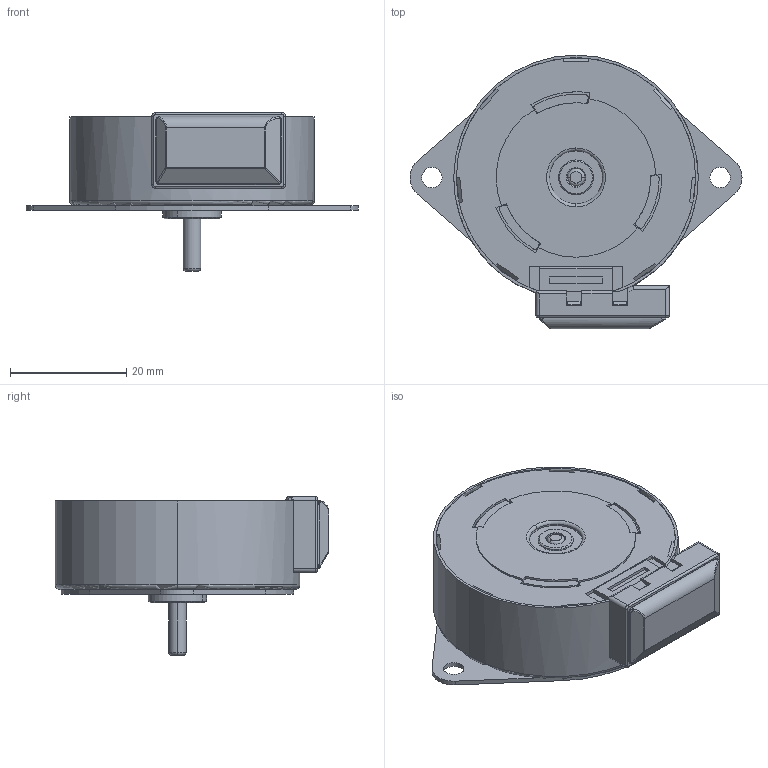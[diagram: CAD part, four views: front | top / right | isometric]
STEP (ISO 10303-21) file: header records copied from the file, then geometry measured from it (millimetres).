
FILE_DESCRIPTION (( 'STEP AP203' ), '1' );
FILE_NAME ('KCL42SC_3D.STEP', '2026-01-28T02:36:44', ( '' ), ( '' ), 'SwSTEP 2.0', 'SolidWorks 2022', '' );
FILE_SCHEMA (( 'CONFIG_CONTROL_DESIGN' ));
Length unit declared in the file: millimetre
Products named in the file (1): KCL42SC_3D
Bounding box: 57 x 47 x 27.24 mm (x, y, z)
Volume: 23278.4 mm3; surface area: 6724.3 mm2
Topology: 1 solids, 15 shells, 487 faces, 1219 edges, 778 vertices
Faces by surface type: plane 221, cylinder 187, cone 35, torus 33, bspline 7, sphere 4
Entity records: 14772 total; most frequent: CARTESIAN_POINT 2837, DIRECTION 2575, ORIENTED_EDGE 2434, EDGE_CURVE 1217, AXIS2_PLACEMENT_3D 948, VERTEX_POINT 778, VECTOR 679, LINE 679
